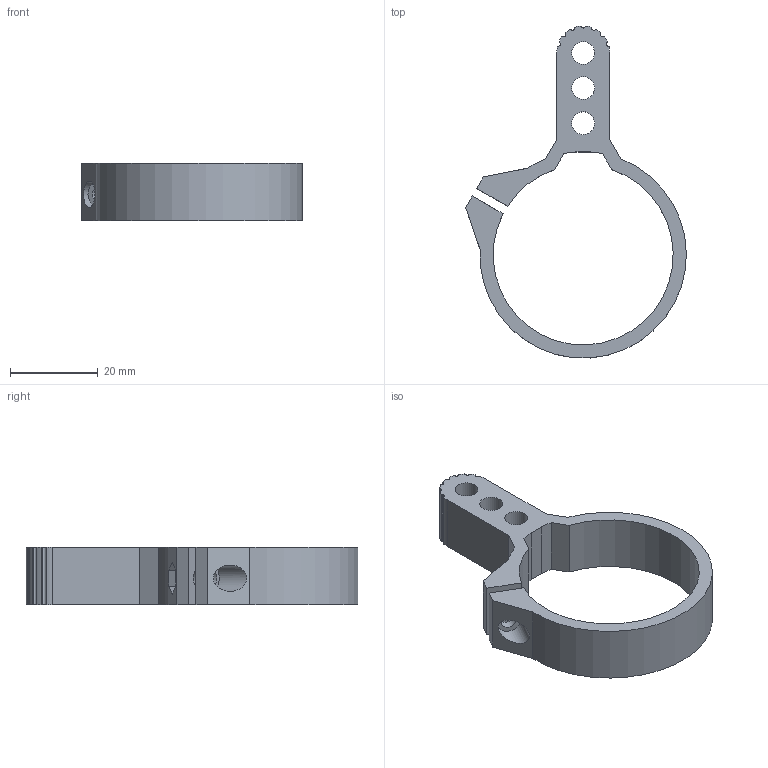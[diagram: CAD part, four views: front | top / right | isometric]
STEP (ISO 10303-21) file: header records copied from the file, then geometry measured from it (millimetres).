
FILE_DESCRIPTION(/* description */ (''),/* implementation_level */ '2;1');
FILE_NAME(/* name */ '/Users/mano/Dropbox/Mano/MV CG Work/MV 3D Projects/Comic/Wonder Woman/MV Assets/Scope Throw Lever V2.step',/* time_stamp */ '2019-04-09T17:10:03-04:00',/* author */ ('mano@mvasilakis.com'),/* organization */ (''),/* preprocessor_version */ 'ST-DEVELOPER v17.2',/* originating_system */ 'Autodesk Translation Framework v7.6.0.251',/* authorisation */ '');
FILE_SCHEMA (('AUTOMOTIVE_DESIGN { 1 0 10303 214 3 1 1 }'));
Length unit declared in the file: millimetre
Products named in the file (1): Scope Throw Lever V2
Bounding box: 50.26 x 75.57 x 13 mm (x, y, z)
Volume: 8972.2 mm3; surface area: 6825.5 mm2
Topology: 1 solids, 1 shells, 64 faces, 180 edges, 120 vertices
Faces by surface type: cylinder 41, plane 23
Full cylindrical faces by diameter (mm): 3.7 x2, 5.2 x3, 6 x1
Entity records: 2159 total; most frequent: DIRECTION 392, CARTESIAN_POINT 365, ORIENTED_EDGE 360, EDGE_CURVE 180, AXIS2_PLACEMENT_3D 147, VERTEX_POINT 120, LINE 98, VECTOR 98
